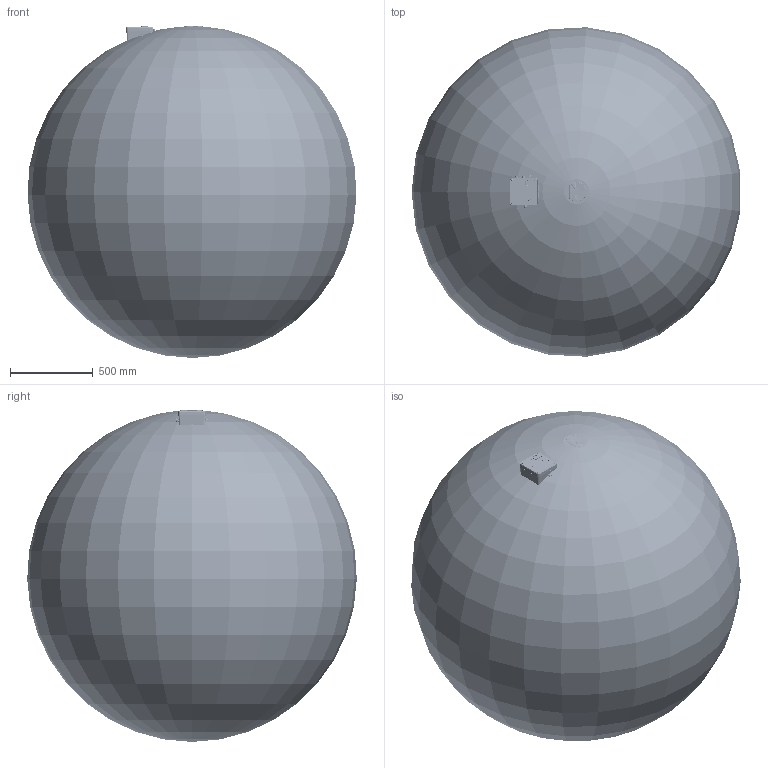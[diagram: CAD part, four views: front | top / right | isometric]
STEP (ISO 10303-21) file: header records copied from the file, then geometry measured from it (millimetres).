
FILE_DESCRIPTION(('STEP AP242'), '1');
FILE_NAME('ÑÃ-ÝÊÐ-Ð-650 ñ ÏÏÄ ïðàâûé', '', ('UNSPECIFIED'), ('UNSPECIFIED'), 'C3D Converter', 'C3D Toolkit', '');
FILE_SCHEMA(('AP242_MANAGED_MODEL_BASED_3D_ENGINEERING_MIM_LF { 1 0 10303 442 1 1 4 }'));
Length unit declared in the file: millimetre
Bounding box: 1981.87 x 1985.23 x 2000.07 mm (x, y, z)
Volume: 4147359312.2 mm3; surface area: 14083369 mm2
Topology: 118 solids, 118 shells, 6329 faces, 16079 edges, 10324 vertices
Faces by surface type: plane 2009, cylinder 1722, extrusion 1106, cone 822, bspline 368, torus 267, sphere 35
Full cylindrical faces by diameter (mm): 1.95 x3, 2 x42, 2.459 x4, 2.5 x12, 2.791 x2, 3 x2, 3.1 x1, 3.2 x14, 3.242 x7, 3.3 x4, 3.45 x3, 3.459 x2, 4 x26, 4.134 x1, 4.3 x2, 4.5 x1, 4.917 x15, 5 x31, 5.5 x4, 6 x55, 6.2 x12, 6.6 x4, 6.75 x2, 7 x11, 7.4 x3, 7.8 x4, 7.9 x6, 8 x18, 8.1 x1, 8.5 x1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
Entity records: 369290 total; most frequent: CARTESIAN_POINT 178416, ORIENTED_EDGE 29584, DIRECTION 24400, EDGE_CURVE 14792, VERTEX_POINT 10243, AXIS2_PLACEMENT_3D 8700, EDGE_LOOP 8183, VECTOR 7000
